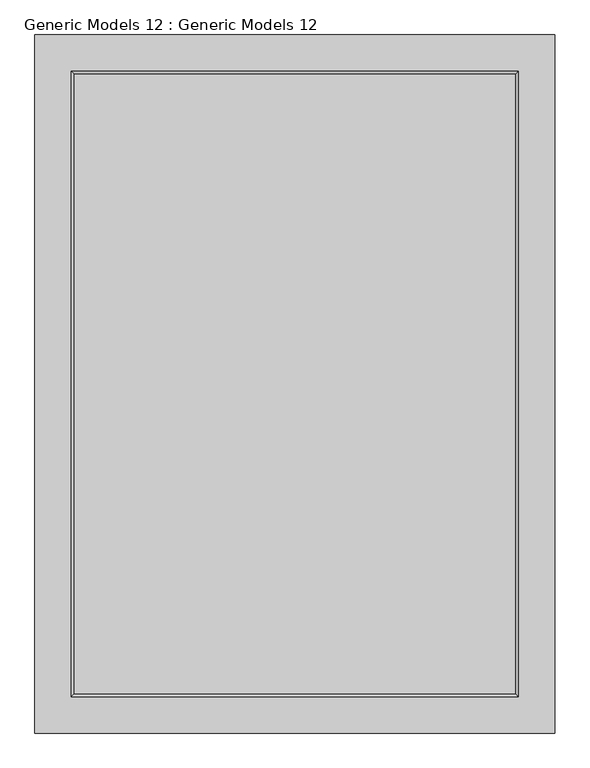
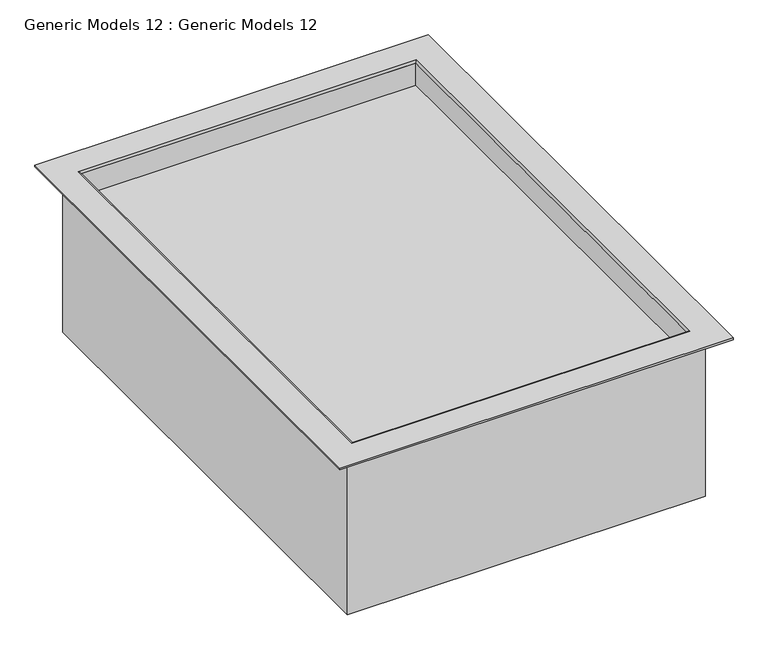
"""IFC4 building model written with IfcOpenShell, lengths in millimetres: proxy geometry, Generic Models 12 : Generic Models 12."""

from ifc_helpers import new_model, si_unit, frame, origin, place, context, project, spatial, polyline, ellipse_curve, outline, extrude, faceted_brep, source, transform, mapped, element, save
from ifc_brep_helpers import plane_surface, cylinder_surface, advanced_brep


def generic_models_12_generic_models_12_64fc7767(model_context):
    return source(origin(), model_context, "Body", "SolidModel", [
        extrude(outline(polyline([(12343.1337784, -7158.2564752), (12343.1337784, -15158.2564752), (6642.6806272, -15158.2564752), (6642.6806272, -7158.2564752), (12343.1337784, -7158.2564752)])), frame((0.0, 0.0, -2500.0), z_axis=(0.0, 0.0, 1.0), x_axis=(1.0, 0.0, 0.0)), (0.0, 0.0, 1.0), 2100.0),
        faceted_brep([(6442.6806272, -15358.2564752, -2900.0), (12542.6806272, -15358.2564752, -2900.0), (12542.6806272, -15358.2564752, -2500.0), (12543.1337784, -15358.2564752, -2500.0), (12543.1337784, -15358.2564752, 0.0), (6442.6806272, -15358.2564752, 0.0), (6442.6806272, -6958.2564752, 0.0), (12543.1337784, -6958.2564752, 0.0), (12543.1337784, -6958.2564752, -2500.0), (12542.6806272, -6958.2564752, -2500.0), (12542.6806272, -6958.2564752, -2900.0), (6442.6806272, -6958.2564752, -2900.0), (12343.1337784, -15158.2564752, -2500.0), (12343.1337784, -7158.2564752, -2500.0), (6642.6806272, -7158.2564752, -2500.0), (6642.6806272, -15158.2564752, -2500.0), (12343.1337784, -7158.2564752, 0.0), (12343.1337784, -15158.2564752, 0.0), (6642.6806272, -15158.2564752, 0.0), (6642.6806272, -7158.2564752, 0.0)], [[[0, 1, 2, 3, 4, 5]], [[6, 7, 8, 9, 10, 11]], [[1, 0, 11, 10]], [[2, 1, 10, 9]], [[12, 13, 14, 15]], [[0, 5, 6, 11]], [[16, 13, 12, 17]], [[8, 7, 4, 3]], [[17, 12, 15, 18]], [[18, 15, 14, 19]], [[13, 16, 19, 14]], [[4, 7, 6, 5], [16, 17, 18, 19]], [[8, 3, 2, 9]]]),
        advanced_brep(
        [(12373.1337784, -7128.2564752, 30.0), (12343.1337784, -7158.2564752, 0.0), (12343.1337784, -15158.2564752, 0.0), (12373.1337784, -15188.2564752, 30.0), (12843.1337784, -6658.2564752, 0.0), (12843.1337784, -6658.2564752, 30.0), (12843.1337784, -15658.2564752, 30.0), (12843.1337784, -15658.2564752, 0.0), (6642.6806272, -15158.2564752, 0.0), (6612.6806272, -15188.2564752, 30.0), (6142.6806272, -15658.2564752, 30.0), (6142.6806272, -15658.2564752, 0.0), (6642.6806272, -7158.2564752, 0.0), (6612.6806272, -7128.2564752, 30.0), (6142.6806272, -6658.2564752, 30.0), (6142.6806272, -6658.2564752, 0.0)],
        [
            (0, 1, ellipse_curve(frame((12373.1337784, -7128.2564752, 0.0), z_axis=(0.7071067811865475, -0.7071067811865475, 0.0), x_axis=(0.7071067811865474, 0.7071067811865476, 0.0)), 42.4264069, 30.0)),
            (1, 2),
            (2, 3, ellipse_curve(frame((12373.1337784, -15188.2564752, 0.0), z_axis=(0.7071067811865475, 0.7071067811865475, 0.0), x_axis=(-0.7071067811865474, 0.7071067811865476, 0.0)), 42.4264069, 30.0)),
            (3, 0),
            (4, 5),
            (5, 6),
            (6, 7),
            (7, 4),
            (2, 8),
            (8, 9, ellipse_curve(frame((6612.6806272, -15188.2564752, 0.0), z_axis=(0.7071067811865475, -0.7071067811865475, 0.0), x_axis=(0.7071067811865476, 0.7071067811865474, 0.0)), 42.4264069, 30.0)),
            (9, 3),
            (6, 10),
            (10, 11),
            (11, 7),
            (8, 12),
            (12, 13, ellipse_curve(frame((6612.6806272, -7128.2564752, 0.0), z_axis=(-0.7071067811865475, -0.7071067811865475, 0.0), x_axis=(0.7071067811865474, -0.7071067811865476, 0.0)), 42.4264069, 30.0)),
            (13, 9),
            (10, 14),
            (14, 15),
            (15, 11),
            (12, 1),
            (0, 13),
            (5, 14),
            (4, 15),
        ],
        [
            cylinder_surface(frame((12373.1337784, -6658.2564752, 0.0), z_axis=(0.0, 1.0, 0.0), x_axis=(1.0, 0.0, 0.0)), 30.0),
            plane_surface(frame((12843.1337784, -6658.2564752, 30.0), z_axis=(1.0, 0.0, 0.0), x_axis=(0.0, -1.0, 0.0))),
            cylinder_surface(frame((12843.1337784, -15188.2564752, 0.0), z_axis=(1.0, 0.0, 0.0), x_axis=(0.0, -1.0, 0.0)), 30.0),
            plane_surface(frame((12843.1337784, -15658.2564752, 30.0), z_axis=(0.0, -1.0, 0.0), x_axis=(-1.0, 0.0, 0.0))),
            cylinder_surface(frame((6612.6806272, -15658.2564752, 0.0), z_axis=(0.0, -1.0, 0.0), x_axis=(-1.0, 0.0, 0.0)), 30.0),
            plane_surface(frame((6142.6806272, -15658.2564752, 30.0), z_axis=(-1.0, 0.0, 0.0), x_axis=(0.0, 1.0, 0.0))),
            cylinder_surface(frame((6142.6806272, -7128.2564752, 0.0), z_axis=(-1.0, 0.0, 0.0), x_axis=(0.0, 1.0, 0.0)), 30.0),
            plane_surface(frame((6612.6806272, -7128.2564752, 30.0), z_axis=(0.0, 0.0, 1.0), x_axis=(1.0, 0.0, 0.0))),
            plane_surface(frame((6142.6806272, -6658.2564752, 30.0), z_axis=(0.0, 1.0, 0.0), x_axis=(1.0, 0.0, 0.0))),
            plane_surface(frame((6142.6806272, -6658.2564752, 0.0), z_axis=(0.0, 0.0, -1.0), x_axis=(1.0, 0.0, 0.0))),
        ],
        [
            (0, [[1, 2, 3, 4]]),
            (1, [[5, 6, 7, 8]]),
            (2, [[-3, 9, 10, 11]]),
            (3, [[-7, 12, 13, 14]]),
            (4, [[-10, 15, 16, 17]]),
            (5, [[-13, 18, 19, 20]]),
            (6, [[-16, 21, -1, 22]]),
            (7, [[23, -18, -12, -6], [-11, -17, -22, -4]]),
            (8, [[-19, -23, -5, 24]]),
            (9, [[-14, -20, -24, -8], [-21, -15, -9, -2]]),
        ],
    ),
    ])


if __name__ == "__main__":
    model = new_model("IFC4")
    model_context = context("Model", 3, world=origin())
    ifc_project = project(units=[si_unit("LENGTHUNIT", "METRE", prefix="MILLI")], contexts=[model_context])
    site = spatial("IfcSite", under=ifc_project)
    building = spatial("IfcBuilding", under=site)
    placement = place(None, origin())
    generic_models_12_generic_models_12_shape = generic_models_12_generic_models_12_64fc7767(model_context)
    element("IfcBuildingElementProxy", 1, Name="Generic Models 12 : Generic Models 12", ObjectType="Generic Models 12 : Generic Models 12", at=placement, inside=building, context=model_context, shape_type="MappedRepresentation", body=[
        mapped(generic_models_12_generic_models_12_shape, transform((0.0, 0.0, 0.0), x_axis=(1.0, 0.0, 0.0), y_axis=(0.0, 1.0, 0.0), z_axis=(0.0, 0.0, 1.0))),
    ])
    save(model, "model.ifc")
